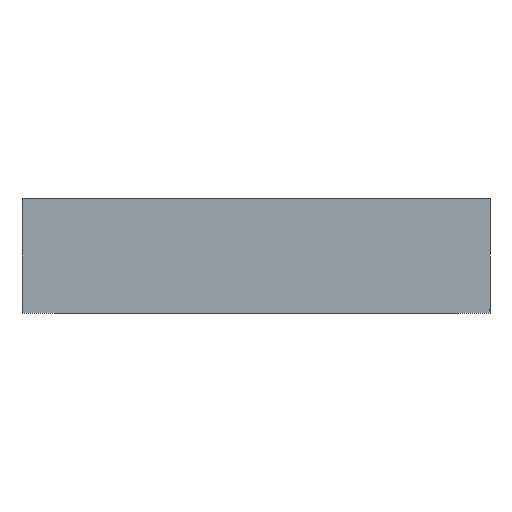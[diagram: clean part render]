
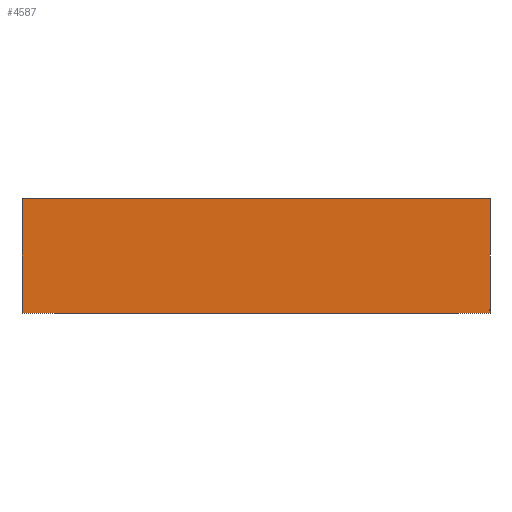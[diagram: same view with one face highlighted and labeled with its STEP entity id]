
A CAD part, front view. The second image highlights one B-rep face of the part: STEP entity #4587.
In plain terms, the highlighted planar face has unit normal (0, -1, 0).
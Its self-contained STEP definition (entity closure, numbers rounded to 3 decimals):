
#339=FACE_OUTER_BOUND('',#571,.T.);
#571=EDGE_LOOP('',(#4141,#4142,#4143,#4144));
#846=LINE('',#6700,#1425);
#1124=LINE('',#7341,#1703);
#1150=LINE('',#7399,#1729);
#1152=LINE('',#7405,#1731);
#1425=VECTOR('',#5394,10.);
#1703=VECTOR('',#6016,10.);
#1729=VECTOR('',#6072,10.);
#1731=VECTOR('',#6082,10.);
#1958=VERTEX_POINT('',#6696);
#1960=VERTEX_POINT('',#6699);
#2150=VERTEX_POINT('',#7338);
#2151=VERTEX_POINT('',#7340);
#2474=EDGE_CURVE('',#1958,#1960,#846,.T.);
#2796=EDGE_CURVE('',#2150,#2151,#1124,.T.);
#2827=EDGE_CURVE('',#1960,#2150,#1150,.T.);
#2830=EDGE_CURVE('',#1958,#2151,#1152,.T.);
#4141=ORIENTED_EDGE('',*,*,#2474,.F.);
#4142=ORIENTED_EDGE('',*,*,#2830,.T.);
#4143=ORIENTED_EDGE('',*,*,#2796,.F.);
#4144=ORIENTED_EDGE('',*,*,#2827,.F.);
#4366=PLANE('',#4894);
#4587=ADVANCED_FACE('',(#339),#4366,.T.);
#4894=AXIS2_PLACEMENT_3D('',#7404,#6080,#6081);
#5394=DIRECTION('',(-1.,0.,0.));
#6016=DIRECTION('',(1.,0.,0.));
#6072=DIRECTION('',(0.,0.,1.));
#6080=DIRECTION('center_axis',(0.,-1.,0.));
#6081=DIRECTION('ref_axis',(1.,0.,0.));
#6082=DIRECTION('',(0.,0.,1.));
#6696=CARTESIAN_POINT('',(29.,-41.,0.));
#6699=CARTESIAN_POINT('',(-29.,-41.,0.));
#6700=CARTESIAN_POINT('',(29.,-41.,0.));
#7338=CARTESIAN_POINT('',(-29.,-41.,14.2));
#7340=CARTESIAN_POINT('',(29.,-41.,14.2));
#7341=CARTESIAN_POINT('',(29.,-41.,14.2));
#7399=CARTESIAN_POINT('',(-29.,-41.,0.));
#7404=CARTESIAN_POINT('Origin',(-29.,-41.,0.));
#7405=CARTESIAN_POINT('',(29.,-41.,0.));
